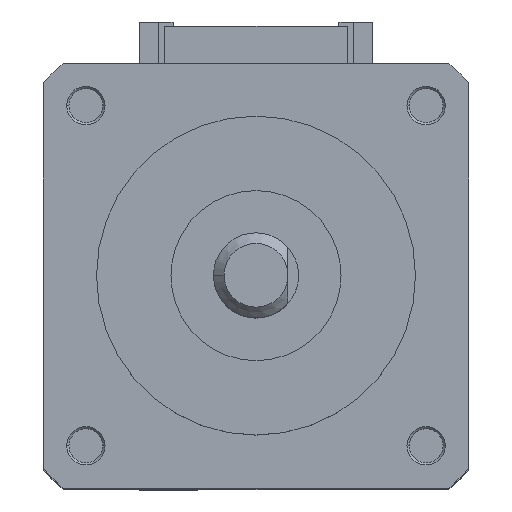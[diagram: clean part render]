
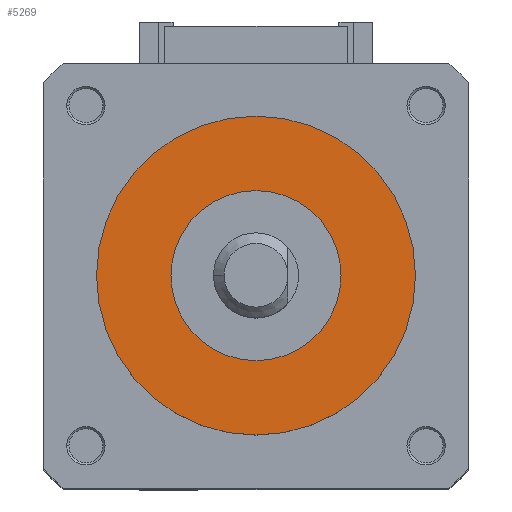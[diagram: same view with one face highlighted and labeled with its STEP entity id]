
A CAD part, top view. The second image highlights one B-rep face of the part: STEP entity #5269.
In plain terms, the highlighted planar face has unit normal (0, 0, 1).
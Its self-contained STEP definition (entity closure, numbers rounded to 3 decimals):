
#169 = DIRECTION ( 'NONE',  ( 1., 0., 0. ) ) ;
#173 = DIRECTION ( 'NONE',  ( 0., 0., 1. ) ) ;
#176 = PLANE ( 'NONE',  #7957 ) ;
#201 = CARTESIAN_POINT ( 'NONE',  ( 0., 0., 4.536 ) ) ;
#390 = VERTEX_POINT ( 'NONE', #1175 ) ;
#493 = VERTEX_POINT ( 'NONE', #1100 ) ;
#514 = VERTEX_POINT ( 'NONE', #1179 ) ;
#654 = VERTEX_POINT ( 'NONE', #1201 ) ;
#1100 = CARTESIAN_POINT ( 'NONE',  ( 7.5, 0., 4.536 ) ) ;
#1175 = CARTESIAN_POINT ( 'NONE',  ( -4., 0., 4.536 ) ) ;
#1179 = CARTESIAN_POINT ( 'NONE',  ( 4., 0., 4.536 ) ) ;
#1201 = CARTESIAN_POINT ( 'NONE',  ( -7.5, 0., 4.536 ) ) ;
#1793 = EDGE_LOOP ( 'NONE', ( #5822, #5823 ) ) ;
#2763 = CARTESIAN_POINT ( 'NONE',  ( 0., 0., 4.536 ) ) ;
#2764 = DIRECTION ( 'NONE',  ( 0., 0., 1. ) ) ;
#2765 = DIRECTION ( 'NONE',  ( 1., 0., 0. ) ) ;
#2795 = CARTESIAN_POINT ( 'NONE',  ( 0., 0., 4.536 ) ) ;
#2802 = DIRECTION ( 'NONE',  ( 0., 0., 1. ) ) ;
#2803 = DIRECTION ( 'NONE',  ( 1., 0., 0. ) ) ;
#3295 = CIRCLE ( 'NONE', #6874, 7.5 ) ;
#3311 = CIRCLE ( 'NONE', #6879, 4. ) ;
#3763 = EDGE_LOOP ( 'NONE', ( #5820, #5821 ) ) ;
#3877 = FACE_OUTER_BOUND ( 'NONE', #1793, .T. ) ;
#3890 = FACE_BOUND ( 'NONE', #3763, .T. ) ;
#5175 = CARTESIAN_POINT ( 'NONE',  ( 0., 0., 4.536 ) ) ;
#5178 = CARTESIAN_POINT ( 'NONE',  ( 0., 0., 4.536 ) ) ;
#5182 = DIRECTION ( 'NONE',  ( 0., 0., 1. ) ) ;
#5183 = DIRECTION ( 'NONE',  ( 1., 0., 0. ) ) ;
#5185 = DIRECTION ( 'NONE',  ( 0., 0., 1. ) ) ;
#5186 = DIRECTION ( 'NONE',  ( 1., 0., 0. ) ) ;
#5269 = ADVANCED_FACE ( 'NONE', ( #3890, #3877 ), #176, .T. ) ;
#5659 = EDGE_CURVE ( 'NONE', #493, #654, #3295, .T. ) ;
#5672 = EDGE_CURVE ( 'NONE', #390, #514, #3311, .T. ) ;
#5820 = ORIENTED_EDGE ( 'NONE', *, *, #7835, .F. ) ;
#5821 = ORIENTED_EDGE ( 'NONE', *, *, #5672, .F. ) ;
#5822 = ORIENTED_EDGE ( 'NONE', *, *, #7834, .T. ) ;
#5823 = ORIENTED_EDGE ( 'NONE', *, *, #5659, .T. ) ;
#6874 = AXIS2_PLACEMENT_3D ( 'NONE', #2763, #2764, #2765 ) ;
#6879 = AXIS2_PLACEMENT_3D ( 'NONE', #2795, #2802, #2803 ) ;
#7006 = AXIS2_PLACEMENT_3D ( 'NONE', #5175, #5182, #5183 ) ;
#7007 = AXIS2_PLACEMENT_3D ( 'NONE', #5178, #5185, #5186 ) ;
#7521 = CIRCLE ( 'NONE', #7006, 7.5 ) ;
#7523 = CIRCLE ( 'NONE', #7007, 4. ) ;
#7834 = EDGE_CURVE ( 'NONE', #654, #493, #7521, .T. ) ;
#7835 = EDGE_CURVE ( 'NONE', #514, #390, #7523, .T. ) ;
#7957 = AXIS2_PLACEMENT_3D ( 'NONE', #201, #173, #169 ) ;
